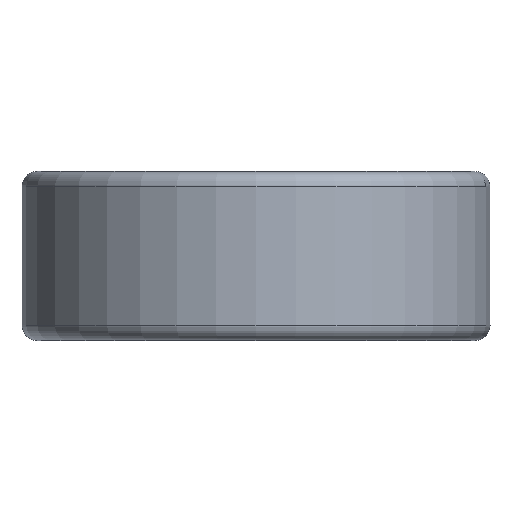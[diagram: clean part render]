
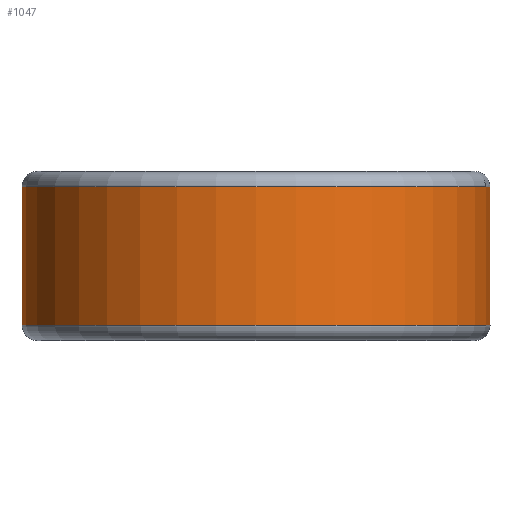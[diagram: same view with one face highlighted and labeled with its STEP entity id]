
A CAD part, left-side view. The second image highlights one B-rep face of the part: STEP entity #1047.
In plain terms, the highlighted cylindrical face has radius 18 mm (diameter 36 mm), a partial arc.
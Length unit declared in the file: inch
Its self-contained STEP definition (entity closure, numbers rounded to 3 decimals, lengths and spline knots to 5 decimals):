
#16=CARTESIAN_POINT('',(0.531,-0.4693,0.17116));
#17=CARTESIAN_POINT('',(0.53791,-0.46147,
0.17116));
#18=CARTESIAN_POINT('',(0.55075,-0.44625,
0.17283));
#19=CARTESIAN_POINT('',(0.56694,-0.42542,
0.17858));
#20=CARTESIAN_POINT('',(0.58041,-0.40679,
0.18651));
#21=CARTESIAN_POINT('',(0.59135,-0.39065,
0.19586));
#22=CARTESIAN_POINT('',(0.6001,-0.37702,
0.20624));
#23=CARTESIAN_POINT('',(0.60692,-0.36593,
0.2175));
#24=CARTESIAN_POINT('',(0.61189,-0.35747,
0.22951));
#25=CARTESIAN_POINT('',(0.61511,-0.35197,
0.24272));
#26=CARTESIAN_POINT('',(0.61615,-0.35012,
0.25696));
#27=CARTESIAN_POINT('',(0.61476,-0.35256,
0.27103));
#28=CARTESIAN_POINT('',(0.61137,-0.35837,
0.28381));
#29=CARTESIAN_POINT('',(0.60631,-0.36693,
0.29546));
#30=CARTESIAN_POINT('',(0.59948,-0.37801,
0.30641));
#31=CARTESIAN_POINT('',(0.59074,-0.39157,
0.31654));
#32=CARTESIAN_POINT('',(0.57985,-0.40758,
0.32568));
#33=CARTESIAN_POINT('',(0.56648,-0.42601,
0.33343));
#34=CARTESIAN_POINT('',(0.55047,-0.44659,
0.33903));
#35=CARTESIAN_POINT('',(0.53781,-0.46159,
0.34066));
#36=CARTESIAN_POINT('',(0.531,-0.4693,0.34066));
#51=DIRECTION('',(0.,0.,1.));
#52=VECTOR('',#51,0.02476);
#53=CARTESIAN_POINT('',(0.68095,0.19625,0.15689));
#54=LINE('',#53,#52);
#55=CARTESIAN_POINT('',(0.531,0.4693,0.07622));
#56=CARTESIAN_POINT('',(0.54162,0.45728,0.07622));
#57=CARTESIAN_POINT('',(0.56343,0.43097,0.07807));
#58=CARTESIAN_POINT('',(0.59677,0.38379,0.08746));
#59=CARTESIAN_POINT('',(0.62879,0.32904,0.10371));
#60=CARTESIAN_POINT('',(0.65773,0.26697,0.12666));
#61=CARTESIAN_POINT('',(0.67391,0.22067,0.14623));
#62=CARTESIAN_POINT('',(0.68095,0.19625,0.15689));
#64=CARTESIAN_POINT('',(0.531,0.4693,0.43559));
#65=CARTESIAN_POINT('',(0.51883,0.48307,0.43559));
#66=CARTESIAN_POINT('',(0.49483,0.50807,0.43311));
#67=CARTESIAN_POINT('',(0.46103,0.53875,0.42265));
#68=CARTESIAN_POINT('',(0.43057,0.56323,0.40617));
#69=CARTESIAN_POINT('',(0.40464,0.58201,0.38507));
#70=CARTESIAN_POINT('',(0.38351,0.59606,0.36021));
#71=CARTESIAN_POINT('',(0.36742,0.60604,0.3325));
#72=CARTESIAN_POINT('',(0.35658,0.61244,0.30277));
#73=CARTESIAN_POINT('',(0.35105,0.6156,0.27146));
#74=CARTESIAN_POINT('',(0.35113,0.61556,0.23952));
#75=CARTESIAN_POINT('',(0.3568,0.61231,0.20822));
#76=CARTESIAN_POINT('',(0.36779,0.60581,0.17852));
#77=CARTESIAN_POINT('',(0.38399,0.59575,0.15092));
#78=CARTESIAN_POINT('',(0.40514,0.58167,0.1263));
#79=CARTESIAN_POINT('',(0.43095,0.56294,0.10536));
#80=CARTESIAN_POINT('',(0.46128,0.53853,0.08911));
#81=CARTESIAN_POINT('',(0.49491,0.50798,0.07867));
#82=CARTESIAN_POINT('',(0.51885,0.48304,0.07622));
#83=CARTESIAN_POINT('',(0.531,0.4693,0.07622));
#85=CARTESIAN_POINT('',(0.68095,0.19625,0.35492));
#86=CARTESIAN_POINT('',(0.67391,0.22066,0.36557));
#87=CARTESIAN_POINT('',(0.65774,0.26694,0.3851));
#88=CARTESIAN_POINT('',(0.62882,0.32899,0.40807));
#89=CARTESIAN_POINT('',(0.59681,0.38373,0.42438));
#90=CARTESIAN_POINT('',(0.56345,0.43094,0.4337));
#91=CARTESIAN_POINT('',(0.54163,0.45727,0.43559));
#92=CARTESIAN_POINT('',(0.531,0.4693,0.43559));
#94=DIRECTION('',(0.,0.,1.));
#95=VECTOR('',#94,0.02476);
#96=CARTESIAN_POINT('',(0.68095,0.19625,0.33016));
#97=LINE('',#96,#95);
#98=DIRECTION('',(0.,0.,-1.));
#99=VECTOR('',#98,0.1485);
#100=CARTESIAN_POINT('',(0.68095,0.19625,
0.33016));
#101=LINE('',#100,#99);
#102=CARTESIAN_POINT('',(0.,0.,0.04606));
#103=DIRECTION('',(0.,0.,-1.));
#104=DIRECTION('',(0.999,-0.044,0.));
#105=AXIS2_PLACEMENT_3D('',#102,#103,#104);
#107=DIRECTION('',(0.,0.,-1.));
#108=VECTOR('',#107,0.4197);
#109=CARTESIAN_POINT('',(0.70797,0.0313,
0.46576));
#110=LINE('',#109,#108);
#111=CARTESIAN_POINT('',(0.,0.,0.46575));
#112=DIRECTION('',(0.,0.,1.));
#113=DIRECTION('',(0.999,0.044,0.));
#114=AXIS2_PLACEMENT_3D('',#111,#112,#113);
#116=DIRECTION('',(0.,0.,1.));
#117=VECTOR('',#116,0.4197);
#118=CARTESIAN_POINT('',(0.70797,-0.0313,
0.04606));
#119=LINE('',#118,#117);
#697=CARTESIAN_POINT('',(0.531,-0.4693,0.34066));
#698=CARTESIAN_POINT('',(0.52396,-0.47727,
0.34066));
#699=CARTESIAN_POINT('',(0.51025,-0.49206,
0.3389));
#700=CARTESIAN_POINT('',(0.49167,-0.51054,
0.33181));
#701=CARTESIAN_POINT('',(0.47581,-0.52529,
0.32112));
#702=CARTESIAN_POINT('',(0.46326,-0.53634,
0.30786));
#703=CARTESIAN_POINT('',(0.45422,-0.54398,
0.29307));
#704=CARTESIAN_POINT('',(0.44855,-0.54865,
0.27762));
#705=CARTESIAN_POINT('',(0.44595,-0.55075,
0.26173));
#706=CARTESIAN_POINT('',(0.44636,-0.55042,
0.24579));
#707=CARTESIAN_POINT('',(0.44971,-0.5477,
0.23021));
#708=CARTESIAN_POINT('',(0.45601,-0.54248,
0.21529));
#709=CARTESIAN_POINT('',(0.46537,-0.53451,
0.20139));
#710=CARTESIAN_POINT('',(0.47775,-0.52352,
0.18918));
#711=CARTESIAN_POINT('',(0.49306,-0.50918,
0.17937));
#712=CARTESIAN_POINT('',(0.51089,-0.49137,
0.17281));
#713=CARTESIAN_POINT('',(0.52416,-0.47703,
0.17116));
#714=CARTESIAN_POINT('',(0.531,-0.4693,0.17116));
#824=VERTEX_POINT('',#16);
#825=VERTEX_POINT('',#36);
#830=CARTESIAN_POINT('',(0.68095,0.19625,
0.15689));
#831=CARTESIAN_POINT('',(0.68095,0.19625,
0.18165));
#832=VERTEX_POINT('',#830);
#833=VERTEX_POINT('',#831);
#834=VERTEX_POINT('',#55);
#835=VERTEX_POINT('',#64);
#836=VERTEX_POINT('',#85);
#837=CARTESIAN_POINT('',(0.68095,0.19625,
0.33016));
#838=VERTEX_POINT('',#837);
#839=CARTESIAN_POINT('',(0.70797,-0.0313,
0.04606));
#840=CARTESIAN_POINT('',(0.70797,0.0313,
0.04606));
#841=VERTEX_POINT('',#839);
#842=VERTEX_POINT('',#840);
#843=CARTESIAN_POINT('',(0.70797,0.0313,
0.46576));
#844=VERTEX_POINT('',#843);
#845=CARTESIAN_POINT('',(0.70797,-0.0313,
0.46575));
#846=VERTEX_POINT('',#845);
#1013=CARTESIAN_POINT('',(0.,0.,0.51181));
#1014=DIRECTION('',(0.,0.,-1.));
#1015=DIRECTION('',(-1.,0.,0.));
#1016=AXIS2_PLACEMENT_3D('',#1013,#1014,#1015);
#1017=CYLINDRICAL_SURFACE('',#1016,0.70866);
#1019=ORIENTED_EDGE('',*,*,#1018,.T.);
#1021=ORIENTED_EDGE('',*,*,#1020,.F.);
#1023=ORIENTED_EDGE('',*,*,#1022,.T.);
#1025=ORIENTED_EDGE('',*,*,#1024,.F.);
#1026=EDGE_LOOP('',(#1019,#1021,#1023,#1025));
#1027=FACE_OUTER_BOUND('',#1026,.F.);
#1029=ORIENTED_EDGE('',*,*,#1028,.F.);
#1031=ORIENTED_EDGE('',*,*,#1030,.F.);
#1033=ORIENTED_EDGE('',*,*,#1032,.F.);
#1035=ORIENTED_EDGE('',*,*,#1034,.F.);
#1037=ORIENTED_EDGE('',*,*,#1036,.F.);
#1039=ORIENTED_EDGE('',*,*,#1038,.T.);
#1040=EDGE_LOOP('',(#1029,#1031,#1033,#1035,#1037,#1039));
#1041=FACE_BOUND('',#1040,.F.);
#1043=ORIENTED_EDGE('',*,*,#1042,.T.);
#1044=ORIENTED_EDGE('',*,*,#995,.T.);
#1045=EDGE_LOOP('',(#1043,#1044));
#1046=FACE_BOUND('',#1045,.F.);
#37=B_SPLINE_CURVE_WITH_KNOTS('',3,(#16,#17,#18,#19,#20,#21,#22,#23,#24,#25,#26,
#27,#28,#29,#30,#31,#32,#33,#34,#35,#36),.UNSPECIFIED.,.F.,.F.,(4,1,1,1,1,1,1,1,
1,1,1,1,1,1,1,1,1,1,4),(0.,0.05556,0.11111,
0.16667,0.22222,0.27778,0.33333,
0.38889,0.44444,0.5,0.55556,0.61111,
0.66667,0.72222,0.77778,0.83333,
0.88889,0.94444,1.),.UNSPECIFIED.);
#63=B_SPLINE_CURVE_WITH_KNOTS('',3,(#55,#56,#57,#58,#59,#60,#61,#62),
.UNSPECIFIED.,.F.,.F.,(4,1,1,1,1,4),(0.,0.2,0.4,0.6,0.8,1.),
.UNSPECIFIED.);
#84=B_SPLINE_CURVE_WITH_KNOTS('',3,(#64,#65,#66,#67,#68,#69,#70,#71,#72,#73,#74,
#75,#76,#77,#78,#79,#80,#81,#82,#83),.UNSPECIFIED.,.F.,.F.,(4,1,1,1,1,1,1,1,1,1,
1,1,1,1,1,1,1,4),(0.,0.05882,0.11765,0.17647,
0.23529,0.29412,0.35294,0.41176,
0.47059,0.52941,0.58824,0.64706,
0.70588,0.76471,0.82353,0.88235,
0.94118,1.),.UNSPECIFIED.);
#93=B_SPLINE_CURVE_WITH_KNOTS('',3,(#85,#86,#87,#88,#89,#90,#91,#92),
.UNSPECIFIED.,.F.,.F.,(4,1,1,1,1,4),(0.,0.2,0.4,0.6,0.8,1.),
.UNSPECIFIED.);
#106=CIRCLE('',#105,0.70866);
#115=CIRCLE('',#114,0.70866);
#715=B_SPLINE_CURVE_WITH_KNOTS('',3,(#697,#698,#699,#700,#701,#702,#703,#704,
#705,#706,#707,#708,#709,#710,#711,#712,#713,#714),.UNSPECIFIED.,.F.,.F.,(4,1,1,
1,1,1,1,1,1,1,1,1,1,1,1,4),(0.,0.06667,0.13333,0.2,
0.26667,0.33333,0.4,0.46667,0.53333,
0.6,0.66667,0.73333,0.8,0.86667,
0.93333,1.),.UNSPECIFIED.);
#995=EDGE_CURVE('',#824,#825,#37,.T.);
#1018=EDGE_CURVE('',#841,#842,#106,.T.);
#1020=EDGE_CURVE('',#844,#842,#110,.T.);
#1022=EDGE_CURVE('',#844,#846,#115,.T.);
#1024=EDGE_CURVE('',#841,#846,#119,.T.);
#1028=EDGE_CURVE('',#832,#833,#54,.T.);
#1030=EDGE_CURVE('',#834,#832,#63,.T.);
#1032=EDGE_CURVE('',#835,#834,#84,.T.);
#1034=EDGE_CURVE('',#836,#835,#93,.T.);
#1036=EDGE_CURVE('',#838,#836,#97,.T.);
#1038=EDGE_CURVE('',#838,#833,#101,.T.);
#1042=EDGE_CURVE('',#825,#824,#715,.T.);
#1047=ADVANCED_FACE('',(#1027,#1041,#1046),#1017,.T.);
